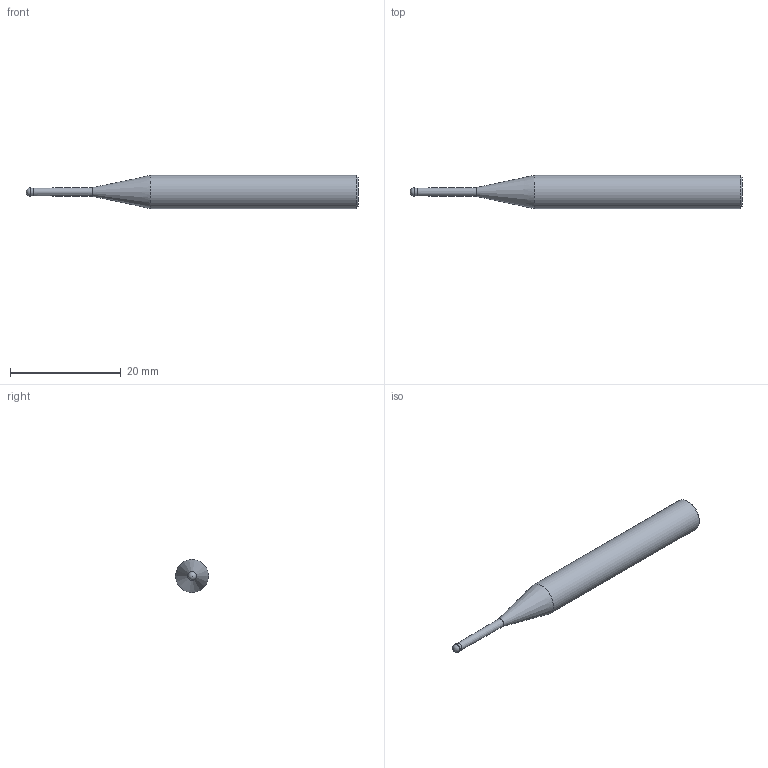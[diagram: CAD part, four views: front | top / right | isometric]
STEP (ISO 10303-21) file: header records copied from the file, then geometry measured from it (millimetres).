
FILE_DESCRIPTION(/* description */ (''),/* implementation_level */ '2;1');
FILE_NAME(/* name */ 'HGXPB2015-12-T0.4 0660.stp',/* time_stamp */ '2026-01-22T09:00:51+08:00',/* author */ (''),/* organization */ (''),/* preprocessor_version */ 'ST-DEVELOPER v16',/* originating_system */ 'SIEMENS PLM Software NX 10.0',/* authorisation */ '');
FILE_SCHEMA (('CONFIG_CONTROL_DESIGN'));
Length unit declared in the file: millimetre
Products named in the file (1): HGXPB2015-12-T0.4 0660_x_t
Bounding box: 60 x 6 x 6 mm (x, y, z)
Volume: 1212.8 mm3; surface area: 916.3 mm2
Topology: 1 solids, 1 shells, 9 faces, 16 edges, 9 vertices
Faces by surface type: cylinder 3, cone 3, plane 2, sphere 1
Full cylindrical faces by diameter (mm): 1.42 x1, 1.5 x1, 6 x1
Entity records: 258 total; most frequent: DIRECTION 36, CARTESIAN_POINT 26, AXIS2_PLACEMENT_3D 18, EDGE_LOOP 16, ORIENTED_EDGE 16, FACE_BOUND 14, ADVANCED_FACE 9, VERTEX_POINT 8
